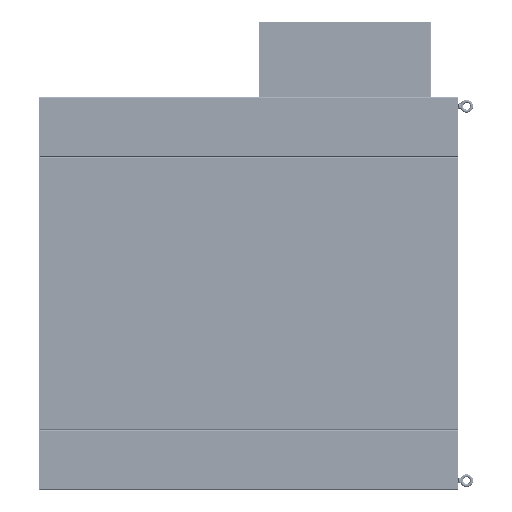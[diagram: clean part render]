
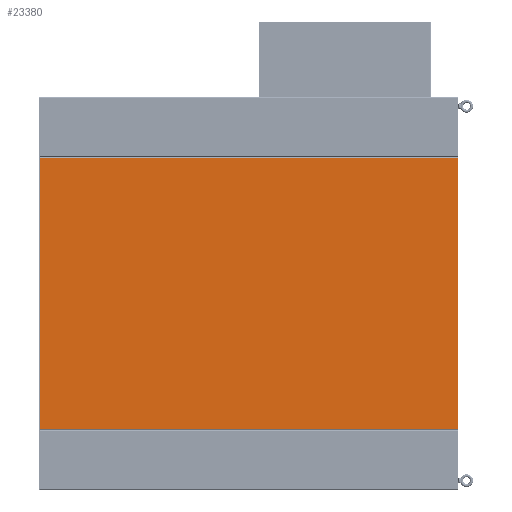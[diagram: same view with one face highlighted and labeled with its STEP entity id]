
A CAD part, left-side view. The second image highlights one B-rep face of the part: STEP entity #23380.
In plain terms, the highlighted planar face has unit normal (-1, 0, 0) as drawn and (0, 0, -1) by its records, which use the part's own axes.
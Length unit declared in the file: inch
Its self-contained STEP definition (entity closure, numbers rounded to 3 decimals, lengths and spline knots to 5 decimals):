
#22916=DIRECTION('',(0.,-1.,0.));
#22917=VECTOR('',#22916,83.75);
#22918=CARTESIAN_POINT('',(-27.125,0.,-0.125));
#22919=LINE('',#22918,#22917);
#22931=DIRECTION('',(1.,0.,0.));
#22932=VECTOR('',#22931,54.25);
#22933=CARTESIAN_POINT('',(-27.125,-83.75,-0.125));
#22934=LINE('',#22933,#22932);
#22938=DIRECTION('',(-1.,0.,0.));
#22939=VECTOR('',#22938,54.25);
#22940=CARTESIAN_POINT('',(27.125,0.,-0.125));
#22941=LINE('',#22940,#22939);
#22974=DIRECTION('',(0.,1.,0.));
#22975=VECTOR('',#22974,83.75);
#22976=CARTESIAN_POINT('',(27.125,-83.75,-0.125));
#22977=LINE('',#22976,#22975);
#23181=CARTESIAN_POINT('',(27.125,0.,-0.125));
#23182=VERTEX_POINT('',#23181);
#23183=CARTESIAN_POINT('',(27.125,-83.75,-0.125));
#23184=VERTEX_POINT('',#23183);
#23213=CARTESIAN_POINT('',(-27.125,-83.75,-0.125));
#23214=VERTEX_POINT('',#23213);
#23215=CARTESIAN_POINT('',(-27.125,0.,-0.125));
#23216=VERTEX_POINT('',#23215);
#23366=CARTESIAN_POINT('',(0.,0.,-0.125));
#23367=DIRECTION('',(0.,0.,1.));
#23368=DIRECTION('',(1.,0.,0.));
#23369=AXIS2_PLACEMENT_3D('',#23366,#23367,#23368);
#23370=PLANE('',#23369);
#23371=ORIENTED_EDGE('',*,*,#23359,.T.);
#23373=ORIENTED_EDGE('',*,*,#23372,.T.);
#23375=ORIENTED_EDGE('',*,*,#23374,.T.);
#23377=ORIENTED_EDGE('',*,*,#23376,.T.);
#23378=EDGE_LOOP('',(#23371,#23373,#23375,#23377));
#23379=FACE_OUTER_BOUND('',#23378,.F.);
#23359=EDGE_CURVE('',#23216,#23214,#22919,.T.);
#23372=EDGE_CURVE('',#23214,#23184,#22934,.T.);
#23374=EDGE_CURVE('',#23184,#23182,#22977,.T.);
#23376=EDGE_CURVE('',#23182,#23216,#22941,.T.);
#23380=ADVANCED_FACE('',(#23379),#23370,.F.);
